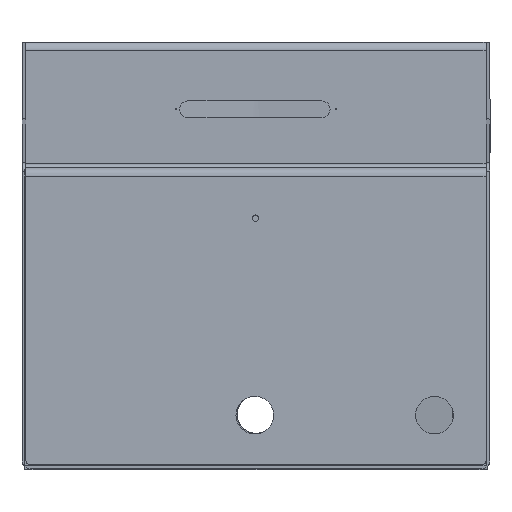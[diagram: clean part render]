
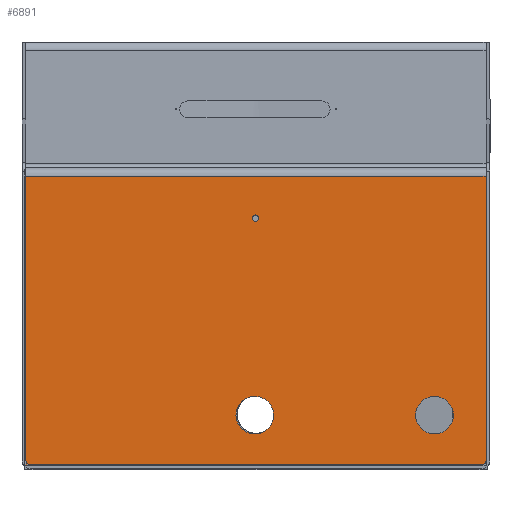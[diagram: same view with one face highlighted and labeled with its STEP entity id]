
A CAD part, front view. The second image highlights one B-rep face of the part: STEP entity #6891.
In plain terms, the highlighted planar face has unit normal (0, -1, 0).
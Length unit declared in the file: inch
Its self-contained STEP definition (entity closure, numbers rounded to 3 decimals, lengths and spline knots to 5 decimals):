
#93 = ORIENTED_EDGE ( 'NONE', *, *, #6128, .T. ) ;
#132 = CARTESIAN_POINT ( 'NONE',  ( 6.87825, -12.75, 8.62732 ) ) ;
#240 = DIRECTION ( 'NONE',  ( 0., 1., 0. ) ) ;
#389 = CARTESIAN_POINT ( 'NONE',  ( -6.91175, -12.75, 8.62732 ) ) ;
#408 = DIRECTION ( 'NONE',  ( 0., 1., 0. ) ) ;
#505 = DIRECTION ( 'NONE',  ( 0., 0., -1. ) ) ;
#564 = EDGE_CURVE ( 'NONE', #1997, #7483, #1412, .T. ) ;
#661 = CIRCLE ( 'NONE', #5102, 0.09375 ) ;
#741 = CARTESIAN_POINT ( 'NONE',  ( -0.03675, -12.75, 2.04142 ) ) ;
#816 = VERTEX_POINT ( 'NONE', #389 ) ;
#943 = LINE ( 'NONE', #6976, #3136 ) ;
#995 = ORIENTED_EDGE ( 'NONE', *, *, #3262, .T. ) ;
#1037 = VERTEX_POINT ( 'NONE', #741 ) ;
#1249 = CIRCLE ( 'NONE', #5766, 0.09375 ) ;
#1259 = AXIS2_PLACEMENT_3D ( 'NONE', #3844, #4529, #505 ) ;
#1266 = CARTESIAN_POINT ( 'NONE',  ( 5.33825, -12.75, 1.47892 ) ) ;
#1412 = LINE ( 'NONE', #8695, #1935 ) ;
#1533 = DIRECTION ( 'NONE',  ( 0., 0., -1. ) ) ;
#1542 = VERTEX_POINT ( 'NONE', #3715 ) ;
#1613 = ORIENTED_EDGE ( 'NONE', *, *, #8516, .T. ) ;
#1763 = EDGE_CURVE ( 'NONE', #816, #1997, #943, .T. ) ;
#1885 = EDGE_CURVE ( 'NONE', #1037, #7673, #5039, .T. ) ;
#1922 = AXIS2_PLACEMENT_3D ( 'NONE', #2801, #6256, #5578 ) ;
#1935 = VECTOR ( 'NONE', #6764, 39.37008 ) ;
#1997 = VERTEX_POINT ( 'NONE', #8646 ) ;
#2104 = ORIENTED_EDGE ( 'NONE', *, *, #1885, .T. ) ;
#2117 = VECTOR ( 'NONE', #8451, 39.37008 ) ;
#2187 = VERTEX_POINT ( 'NONE', #132 ) ;
#2276 = FACE_BOUND ( 'NONE', #6261, .T. ) ;
#2289 = CARTESIAN_POINT ( 'NONE',  ( -0.03675, -12.75, 1.47892 ) ) ;
#2326 = DIRECTION ( 'NONE',  ( 0., 0., -1. ) ) ;
#2486 = CIRCLE ( 'NONE', #1922, 0.5625 ) ;
#2541 = ORIENTED_EDGE ( 'NONE', *, *, #2784, .T. ) ;
#2606 = DIRECTION ( 'NONE',  ( 0., 0., -1. ) ) ;
#2784 = EDGE_CURVE ( 'NONE', #1542, #3871, #1249, .T. ) ;
#2788 = ORIENTED_EDGE ( 'NONE', *, *, #1763, .T. ) ;
#2801 = CARTESIAN_POINT ( 'NONE',  ( -0.03675, -12.75, 1.47892 ) ) ;
#3011 = CARTESIAN_POINT ( 'NONE',  ( -0.01675, -12.75, 7.46567 ) ) ;
#3032 = CARTESIAN_POINT ( 'NONE',  ( -0.03675, -12.75, 0.91642 ) ) ;
#3084 = DIRECTION ( 'NONE',  ( 0., 1., 0. ) ) ;
#3136 = VECTOR ( 'NONE', #1533, 39.37008 ) ;
#3151 = VECTOR ( 'NONE', #7335, 39.37008 ) ;
#3262 = EDGE_CURVE ( 'NONE', #7673, #1037, #2486, .T. ) ;
#3575 = LINE ( 'NONE', #5681, #2117 ) ;
#3715 = CARTESIAN_POINT ( 'NONE',  ( -0.01675, -12.75, 7.27817 ) ) ;
#3731 = VERTEX_POINT ( 'NONE', #6180 ) ;
#3844 = CARTESIAN_POINT ( 'NONE',  ( 6.87825, -12.75, -0.02108 ) ) ;
#3871 = VERTEX_POINT ( 'NONE', #3011 ) ;
#3923 = CARTESIAN_POINT ( 'NONE',  ( 6.87825, -12.75, -0.02108 ) ) ;
#4143 = CIRCLE ( 'NONE', #4715, 0.5625 ) ;
#4213 = ORIENTED_EDGE ( 'NONE', *, *, #7777, .T. ) ;
#4321 = LINE ( 'NONE', #3923, #3151 ) ;
#4454 = CARTESIAN_POINT ( 'NONE',  ( 5.33825, -12.75, 1.47892 ) ) ;
#4529 = DIRECTION ( 'NONE',  ( 0., -1., 0. ) ) ;
#4697 = CARTESIAN_POINT ( 'NONE',  ( 6.87825, -12.75, -0.02108 ) ) ;
#4715 = AXIS2_PLACEMENT_3D ( 'NONE', #4454, #408, #5094 ) ;
#4776 = CARTESIAN_POINT ( 'NONE',  ( 5.33825, -12.75, 2.04142 ) ) ;
#4922 = ORIENTED_EDGE ( 'NONE', *, *, #564, .T. ) ;
#5039 = CIRCLE ( 'NONE', #8518, 0.5625 ) ;
#5094 = DIRECTION ( 'NONE',  ( 0., 0., -1. ) ) ;
#5102 = AXIS2_PLACEMENT_3D ( 'NONE', #7900, #6585, #7261 ) ;
#5133 = FACE_BOUND ( 'NONE', #7919, .T. ) ;
#5332 = EDGE_LOOP ( 'NONE', ( #93, #6857, #2788, #4922 ) ) ;
#5425 = EDGE_LOOP ( 'NONE', ( #7722, #4213 ) ) ;
#5578 = DIRECTION ( 'NONE',  ( 0., 0., -1. ) ) ;
#5664 = FACE_BOUND ( 'NONE', #5425, .T. ) ;
#5669 = AXIS2_PLACEMENT_3D ( 'NONE', #1266, #5985, #2606 ) ;
#5681 = CARTESIAN_POINT ( 'NONE',  ( 6.87825, -12.75, 8.62732 ) ) ;
#5766 = AXIS2_PLACEMENT_3D ( 'NONE', #6264, #240, #2326 ) ;
#5985 = DIRECTION ( 'NONE',  ( 0., 1., 0. ) ) ;
#6033 = EDGE_CURVE ( 'NONE', #816, #2187, #3575, .T. ) ;
#6128 = EDGE_CURVE ( 'NONE', #7483, #2187, #4321, .T. ) ;
#6180 = CARTESIAN_POINT ( 'NONE',  ( 5.33825, -12.75, 0.91642 ) ) ;
#6256 = DIRECTION ( 'NONE',  ( 0., 1., 0. ) ) ;
#6261 = EDGE_LOOP ( 'NONE', ( #2541, #1613 ) ) ;
#6264 = CARTESIAN_POINT ( 'NONE',  ( -0.01675, -12.75, 7.37192 ) ) ;
#6585 = DIRECTION ( 'NONE',  ( 0., 1., 0. ) ) ;
#6764 = DIRECTION ( 'NONE',  ( 1., 0., 0. ) ) ;
#6775 = EDGE_CURVE ( 'NONE', #3731, #8077, #8075, .T. ) ;
#6857 = ORIENTED_EDGE ( 'NONE', *, *, #6033, .F. ) ;
#6891 = ADVANCED_FACE ( 'NONE', ( #7858, #5664, #5133, #2276 ), #7870, .T. ) ;
#6976 = CARTESIAN_POINT ( 'NONE',  ( -6.91175, -12.75, -0.02108 ) ) ;
#7261 = DIRECTION ( 'NONE',  ( 0., 0., -1. ) ) ;
#7335 = DIRECTION ( 'NONE',  ( 0., 0., 1. ) ) ;
#7483 = VERTEX_POINT ( 'NONE', #4697 ) ;
#7673 = VERTEX_POINT ( 'NONE', #3032 ) ;
#7722 = ORIENTED_EDGE ( 'NONE', *, *, #6775, .T. ) ;
#7777 = EDGE_CURVE ( 'NONE', #8077, #3731, #4143, .T. ) ;
#7789 = DIRECTION ( 'NONE',  ( 0., 0., -1. ) ) ;
#7858 = FACE_OUTER_BOUND ( 'NONE', #5332, .T. ) ;
#7870 = PLANE ( 'NONE',  #1259 ) ;
#7900 = CARTESIAN_POINT ( 'NONE',  ( -0.01675, -12.75, 7.37192 ) ) ;
#7919 = EDGE_LOOP ( 'NONE', ( #995, #2104 ) ) ;
#8075 = CIRCLE ( 'NONE', #5669, 0.5625 ) ;
#8077 = VERTEX_POINT ( 'NONE', #4776 ) ;
#8451 = DIRECTION ( 'NONE',  ( 1., 0., 0. ) ) ;
#8516 = EDGE_CURVE ( 'NONE', #3871, #1542, #661, .T. ) ;
#8518 = AXIS2_PLACEMENT_3D ( 'NONE', #2289, #3084, #7789 ) ;
#8646 = CARTESIAN_POINT ( 'NONE',  ( -6.91175, -12.75, -0.02108 ) ) ;
#8695 = CARTESIAN_POINT ( 'NONE',  ( 6.87825, -12.75, -0.02108 ) ) ;
